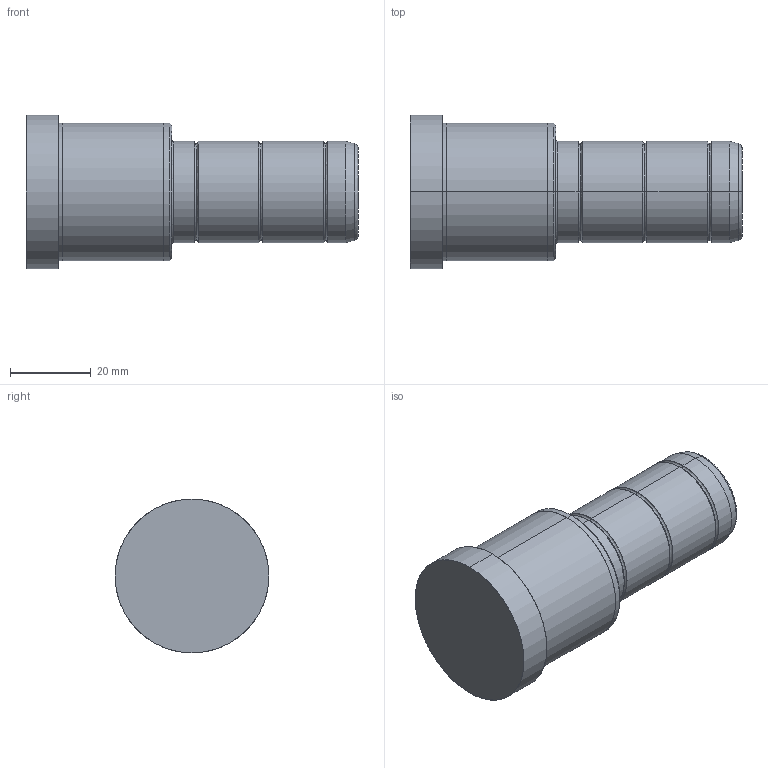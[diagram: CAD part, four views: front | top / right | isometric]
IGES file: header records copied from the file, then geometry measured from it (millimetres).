
Start section: SolidWorks IGES file using analytic representation for surfaces
Global section: file name: C:\Documents and Settings\kalite-mail\Desktop\IGS\D02\25\D02 - 25x36x46.IGS; native system: SolidWorks 2008; preprocessor: SolidWorks 2008; author: kalite-mail; date: 080616.172338; units: millimetre
Bounding box: 82 x 38 x 38 mm (x, y, z)
Surface area: 9829.8 mm2 (no closed solid volume)
Topology: 0 solids, 0 shells, 42 faces, 720 edges, 720 vertices
Faces by surface type: bspline 22, revolution 20
